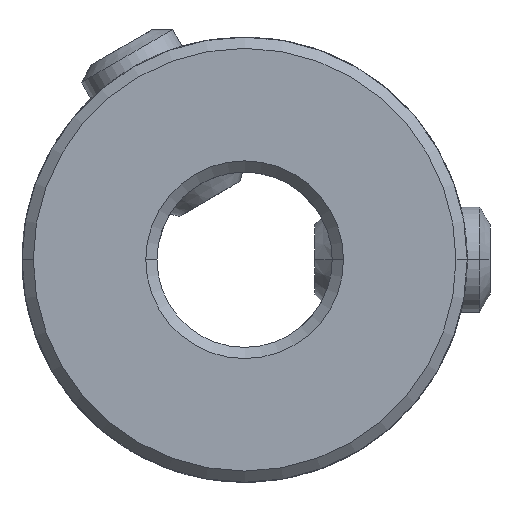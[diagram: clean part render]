
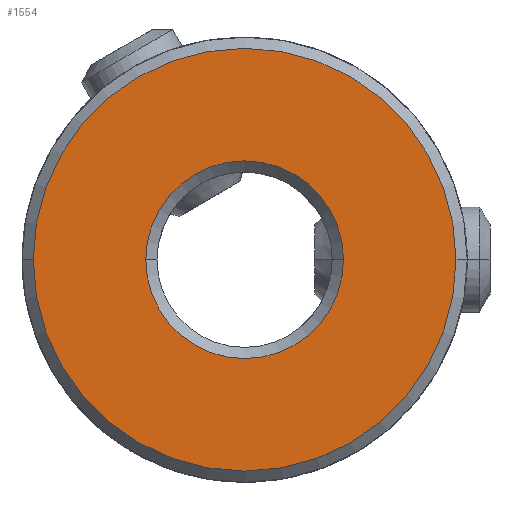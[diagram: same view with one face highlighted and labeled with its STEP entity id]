
A CAD part, front view. The second image highlights one B-rep face of the part: STEP entity #1554.
In plain terms, the highlighted planar face has unit normal (0, -1, 0).
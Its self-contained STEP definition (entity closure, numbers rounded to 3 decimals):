
#2=CARTESIAN_POINT('',(0.,-9.55,0.));
#3=DIRECTION('',(0.,-1.,0.));
#4=DIRECTION('',(1.,0.,0.));
#5=AXIS2_PLACEMENT_3D('',#2,#3,#4);
#7=CARTESIAN_POINT('',(0.,-9.55,0.));
#8=DIRECTION('',(0.,-1.,0.));
#9=DIRECTION('',(-1.,0.,0.));
#10=AXIS2_PLACEMENT_3D('',#7,#8,#9);
#12=CARTESIAN_POINT('',(0.,-9.55,0.));
#13=DIRECTION('',(0.,1.,0.));
#14=DIRECTION('',(1.,0.,0.));
#15=AXIS2_PLACEMENT_3D('',#12,#13,#14);
#17=CARTESIAN_POINT('',(0.,-9.55,0.));
#18=DIRECTION('',(0.,1.,0.));
#19=DIRECTION('',(-1.,0.,0.));
#20=AXIS2_PLACEMENT_3D('',#17,#18,#19);
#1411=CARTESIAN_POINT('',(2.82,-9.55,0.));
#1412=CARTESIAN_POINT('',(-2.82,-9.55,0.));
#1413=VERTEX_POINT('',#1411);
#1414=VERTEX_POINT('',#1412);
#1427=CARTESIAN_POINT('',(6.03,-9.55,0.));
#1428=CARTESIAN_POINT('',(-6.03,-9.55,0.));
#1429=VERTEX_POINT('',#1427);
#1430=VERTEX_POINT('',#1428);
#1537=CARTESIAN_POINT('',(0.,-9.55,0.));
#1538=DIRECTION('',(0.,1.,0.));
#1539=DIRECTION('',(1.,0.,0.));
#1540=AXIS2_PLACEMENT_3D('',#1537,#1538,#1539);
#1541=PLANE('',#1540);
#1543=ORIENTED_EDGE('',*,*,#1542,.F.);
#1545=ORIENTED_EDGE('',*,*,#1544,.F.);
#1546=EDGE_LOOP('',(#1543,#1545));
#1547=FACE_OUTER_BOUND('',#1546,.F.);
#1549=ORIENTED_EDGE('',*,*,#1548,.F.);
#1551=ORIENTED_EDGE('',*,*,#1550,.F.);
#1552=EDGE_LOOP('',(#1549,#1551));
#1553=FACE_BOUND('',#1552,.F.);
#1554=ADVANCED_FACE('',(#1547,#1553),#1541,.F.);
#6=CIRCLE('',#5,6.03);
#11=CIRCLE('',#10,6.03);
#16=CIRCLE('',#15,2.82);
#21=CIRCLE('',#20,2.82);
#1542=EDGE_CURVE('',#1429,#1430,#6,.T.);
#1544=EDGE_CURVE('',#1430,#1429,#11,.T.);
#1548=EDGE_CURVE('',#1413,#1414,#16,.T.);
#1550=EDGE_CURVE('',#1414,#1413,#21,.T.);
